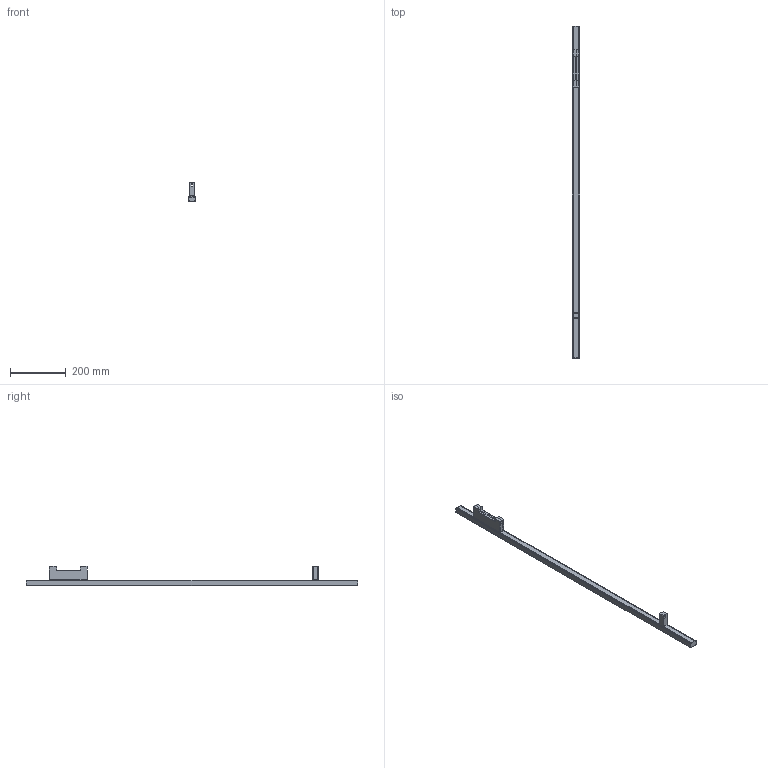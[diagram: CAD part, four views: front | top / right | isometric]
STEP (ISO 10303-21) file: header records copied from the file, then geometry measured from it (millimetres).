
FILE_DESCRIPTION(/* description */ (''),/* implementation_level */ '2;1');
FILE_NAME(/* name */ 'Funivia - Diffused Linear 1200',/* time_stamp */ '2025-11-25T11:58:04+01:00',/* author */ (''),/* organization */ (''),/* preprocessor_version */ 'ST-DEVELOPER v16.5',/* originating_system */ 'Rhino 7.37',/* authorisation */ '');
FILE_SCHEMA (('AUTOMOTIVE_DESIGN'));
Length unit declared in the file: millimetre
Products named in the file (1): Document
Bounding box: 27 x 1187 x 68.38 mm (x, y, z)
Volume: 317186 mm3; surface area: 238976.5 mm2
Topology: 6 solids, 6 shells, 224 faces, 553 edges, 325 vertices
Faces by surface type: cylinder 100, plane 84, bspline 40
Entity records: 6213 total; most frequent: CARTESIAN_POINT 2741, ORIENTED_EDGE 1082, EDGE_CURVE 541, VERTEX_POINT 325, EDGE_LOOP 226, ADVANCED_FACE 224, FACE_OUTER_BOUND 224, B_SPLINE_CURVE_WITH_KNOTS 203
